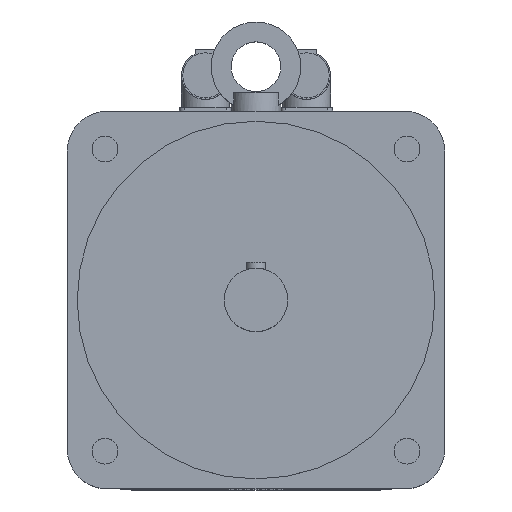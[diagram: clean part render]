
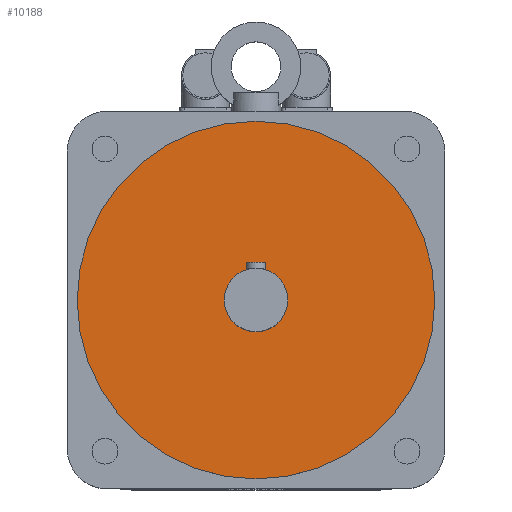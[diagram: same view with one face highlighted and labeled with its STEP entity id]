
A CAD part, top view. The second image highlights one B-rep face of the part: STEP entity #10188.
In plain terms, the highlighted planar face has unit normal (0, 0, 1).
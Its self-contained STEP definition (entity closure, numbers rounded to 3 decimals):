
#208=FACE_BOUND('',#973,.T.);
#290=FACE_OUTER_BOUND('',#972,.T.);
#972=EDGE_LOOP('',(#7169));
#973=EDGE_LOOP('',(#7170));
#1611=CIRCLE('',#10835,16.);
#1612=CIRCLE('',#10837,90.);
#4590=VERTEX_POINT('',#15520);
#4591=VERTEX_POINT('',#15523);
#5600=EDGE_CURVE('',#4590,#4590,#1611,.T.);
#5601=EDGE_CURVE('',#4591,#4591,#1612,.T.);
#7169=ORIENTED_EDGE('',*,*,#5601,.F.);
#7170=ORIENTED_EDGE('',*,*,#5600,.T.);
#9671=PLANE('',#10836);
#10188=ADVANCED_FACE('',(#290,#208),#9671,.T.);
#10835=AXIS2_PLACEMENT_3D('',#15521,#12180,#12181);
#10836=AXIS2_PLACEMENT_3D('',#15522,#12182,#12183);
#10837=AXIS2_PLACEMENT_3D('',#15524,#12184,#12185);
#12180=DIRECTION('center_axis',(0.,0.,-1.));
#12181=DIRECTION('ref_axis',(1.,0.,0.));
#12182=DIRECTION('center_axis',(0.,0.,1.));
#12183=DIRECTION('ref_axis',(1.,0.,0.));
#12184=DIRECTION('center_axis',(0.,0.,-1.));
#12185=DIRECTION('ref_axis',(1.,0.,0.));
#15520=CARTESIAN_POINT('',(0.,16.,283.));
#15521=CARTESIAN_POINT('Origin',(0.,0.,283.));
#15522=CARTESIAN_POINT('Origin',(0.,90.,283.));
#15523=CARTESIAN_POINT('',(0.,90.,283.));
#15524=CARTESIAN_POINT('Origin',(0.,0.,283.));
